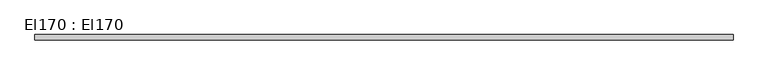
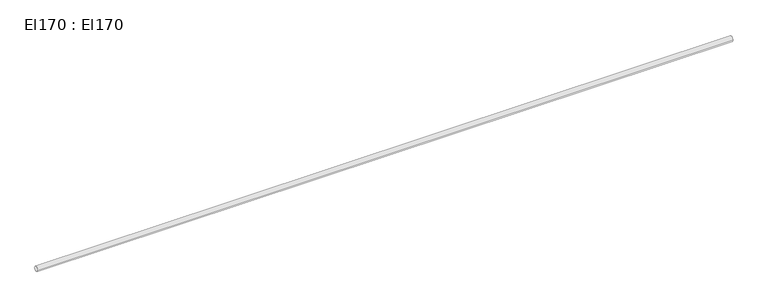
"""IFC4 building model written with IfcOpenShell, lengths in millimetres: cable carrier segment geometry, El170 : El170."""

from ifc_helpers import new_model, si_unit, point, frame, frame_2d, origin, place, context, project, spatial, circle_curve, trimmed, segment, composite_curve, outline, extrude, source, transform, mapped, element, save


def el170_el170_72b8e6b1(model_context):
    return source(origin(), model_context, "Body", "SweptSolid", [
        extrude(outline(composite_curve([segment(trimmed(circle_curve(frame_2d((33122.2, 2950.0)), 9.5), [point((33112.7, 2950.0))], [point((33131.7, 2950.0))], False, "CARTESIAN"), True, "CONTINUOUS"), segment(trimmed(circle_curve(frame_2d((33122.2, 2950.0)), 9.5), [point((33131.7, 2950.0))], [point((33112.7, 2950.0))], False, "CARTESIAN"), True, "CONTINUOUS")], self_intersect=False)), frame((2663.3, 0.0, 0.0), z_axis=(1.0, 0.0, 0.0), x_axis=(0.0, 1.0, 0.0)), (0.0, 0.0, 1.0), 2525.0),
    ])


if __name__ == "__main__":
    model = new_model("IFC4")
    model_context = context("Model", 3, world=origin())
    ifc_project = project(units=[si_unit("LENGTHUNIT", "METRE", prefix="MILLI")], contexts=[model_context])
    site = spatial("IfcSite", under=ifc_project)
    building = spatial("IfcBuilding", under=site)
    placement = place(None, origin())
    el170_el170_shape = el170_el170_72b8e6b1(model_context)
    element("IfcCableCarrierSegment", 1, ObjectType="El170 : El170", at=placement, inside=building, context=model_context, shape_type="MappedRepresentation", body=[
        mapped(el170_el170_shape, transform((0.0, 0.0, 0.0), x_axis=(1.0, 0.0, 0.0), y_axis=(0.0, 1.0, 0.0), z_axis=(0.0, 0.0, 1.0))),
    ])
    save(model, "model.ifc")
